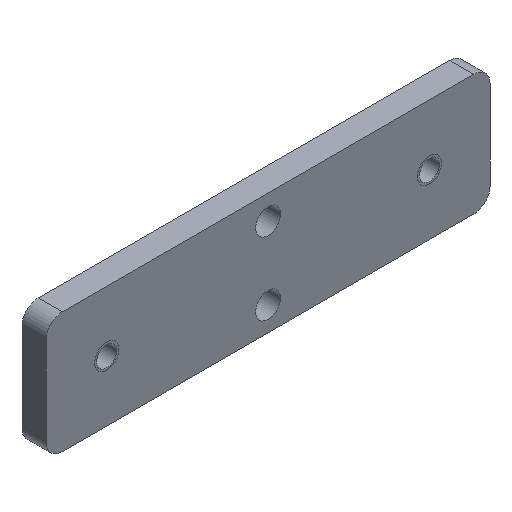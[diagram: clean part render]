
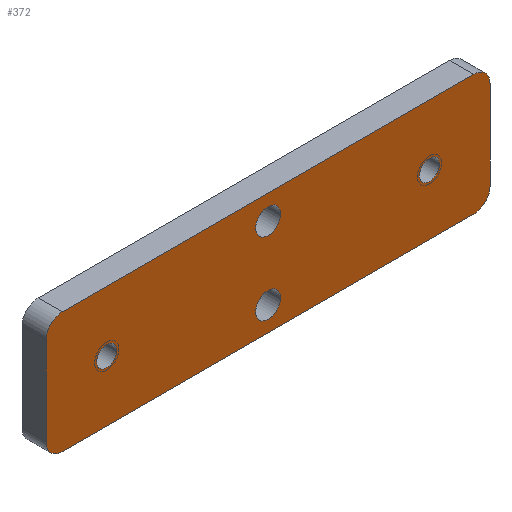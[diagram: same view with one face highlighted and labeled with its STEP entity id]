
A CAD part, isometric view. The second image highlights one B-rep face of the part: STEP entity #372.
In plain terms, the highlighted planar face has unit normal (0, -1, 0).
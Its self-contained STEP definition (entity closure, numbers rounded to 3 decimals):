
#1=CARTESIAN_POINT('',(0.,0.,9.));
#2=DIRECTION('',(0.,1.,0.));
#3=DIRECTION('',(1.,0.,0.));
#4=AXIS2_PLACEMENT_3D('',#1,#2,#3);
#6=CARTESIAN_POINT('',(0.,0.,9.));
#7=DIRECTION('',(0.,1.,0.));
#8=DIRECTION('',(-1.,0.,0.));
#9=AXIS2_PLACEMENT_3D('',#6,#7,#8);
#11=CARTESIAN_POINT('',(0.,0.,-9.));
#12=DIRECTION('',(0.,1.,0.));
#13=DIRECTION('',(1.,0.,0.));
#14=AXIS2_PLACEMENT_3D('',#11,#12,#13);
#16=CARTESIAN_POINT('',(0.,0.,-9.));
#17=DIRECTION('',(0.,1.,0.));
#18=DIRECTION('',(-1.,0.,0.));
#19=AXIS2_PLACEMENT_3D('',#16,#17,#18);
#21=CARTESIAN_POINT('',(40.,0.,0.));
#22=DIRECTION('',(0.,1.,0.));
#23=DIRECTION('',(1.,0.,0.));
#24=AXIS2_PLACEMENT_3D('',#21,#22,#23);
#26=CARTESIAN_POINT('',(40.,0.,0.));
#27=DIRECTION('',(0.,1.,0.));
#28=DIRECTION('',(-1.,0.,0.));
#29=AXIS2_PLACEMENT_3D('',#26,#27,#28);
#31=CARTESIAN_POINT('',(-40.,0.,0.));
#32=DIRECTION('',(0.,1.,0.));
#33=DIRECTION('',(1.,0.,0.));
#34=AXIS2_PLACEMENT_3D('',#31,#32,#33);
#36=CARTESIAN_POINT('',(-40.,0.,0.));
#37=DIRECTION('',(0.,1.,0.));
#38=DIRECTION('',(-1.,0.,0.));
#39=AXIS2_PLACEMENT_3D('',#36,#37,#38);
#41=DIRECTION('',(0.,0.,-1.));
#42=VECTOR('',#41,22.);
#43=CARTESIAN_POINT('',(55.,0.,11.));
#44=LINE('',#43,#42);
#45=DIRECTION('',(-1.,0.,0.));
#46=VECTOR('',#45,102.);
#47=CARTESIAN_POINT('',(51.,0.,-15.));
#48=LINE('',#47,#46);
#49=DIRECTION('',(0.,0.,1.));
#50=VECTOR('',#49,22.);
#51=CARTESIAN_POINT('',(-55.,0.,-11.));
#52=LINE('',#51,#50);
#53=DIRECTION('',(1.,0.,0.));
#54=VECTOR('',#53,102.);
#55=CARTESIAN_POINT('',(-51.,0.,15.));
#56=LINE('',#55,#54);
#194=CARTESIAN_POINT('',(51.,0.,11.));
#195=DIRECTION('',(0.,-1.,0.));
#196=DIRECTION('',(1.,0.,0.));
#197=AXIS2_PLACEMENT_3D('',#194,#195,#196);
#212=CARTESIAN_POINT('',(-51.,0.,11.));
#213=DIRECTION('',(0.,-1.,0.));
#214=DIRECTION('',(0.,0.,1.));
#215=AXIS2_PLACEMENT_3D('',#212,#213,#214);
#230=CARTESIAN_POINT('',(-51.,0.,-11.));
#231=DIRECTION('',(0.,-1.,0.));
#232=DIRECTION('',(-1.,0.,0.));
#233=AXIS2_PLACEMENT_3D('',#230,#231,#232);
#248=CARTESIAN_POINT('',(51.,0.,-11.));
#249=DIRECTION('',(0.,-1.,0.));
#250=DIRECTION('',(0.,0.,-1.));
#251=AXIS2_PLACEMENT_3D('',#248,#249,#250);
#253=CARTESIAN_POINT('',(3.1,0.,9.));
#254=CARTESIAN_POINT('',(-3.1,0.,9.));
#255=VERTEX_POINT('',#253);
#256=VERTEX_POINT('',#254);
#257=CARTESIAN_POINT('',(3.1,0.,-9.));
#258=CARTESIAN_POINT('',(-3.1,0.,-9.));
#259=VERTEX_POINT('',#257);
#260=VERTEX_POINT('',#258);
#273=CARTESIAN_POINT('',(42.5,0.,0.));
#274=CARTESIAN_POINT('',(37.5,0.,0.));
#275=VERTEX_POINT('',#273);
#276=VERTEX_POINT('',#274);
#285=CARTESIAN_POINT('',(-37.5,0.,0.));
#286=CARTESIAN_POINT('',(-42.5,0.,0.));
#287=VERTEX_POINT('',#285);
#288=VERTEX_POINT('',#286);
#294=CARTESIAN_POINT('',(51.,0.,15.));
#296=VERTEX_POINT('',#294);
#299=CARTESIAN_POINT('',(55.,0.,11.));
#300=VERTEX_POINT('',#299);
#302=CARTESIAN_POINT('',(55.,0.,-11.));
#304=VERTEX_POINT('',#302);
#307=CARTESIAN_POINT('',(51.,0.,-15.));
#308=VERTEX_POINT('',#307);
#310=CARTESIAN_POINT('',(-55.,0.,11.));
#312=VERTEX_POINT('',#310);
#315=CARTESIAN_POINT('',(-51.,0.,15.));
#316=VERTEX_POINT('',#315);
#318=CARTESIAN_POINT('',(-51.,0.,-15.));
#320=VERTEX_POINT('',#318);
#323=CARTESIAN_POINT('',(-55.,0.,-11.));
#324=VERTEX_POINT('',#323);
#325=CARTESIAN_POINT('',(0.,0.,0.));
#326=DIRECTION('',(0.,1.,0.));
#327=DIRECTION('',(1.,0.,0.));
#328=AXIS2_PLACEMENT_3D('',#325,#326,#327);
#329=PLANE('',#328);
#331=ORIENTED_EDGE('',*,*,#330,.F.);
#333=ORIENTED_EDGE('',*,*,#332,.T.);
#335=ORIENTED_EDGE('',*,*,#334,.F.);
#337=ORIENTED_EDGE('',*,*,#336,.T.);
#339=ORIENTED_EDGE('',*,*,#338,.F.);
#341=ORIENTED_EDGE('',*,*,#340,.T.);
#343=ORIENTED_EDGE('',*,*,#342,.F.);
#345=ORIENTED_EDGE('',*,*,#344,.T.);
#346=EDGE_LOOP('',(#331,#333,#335,#337,#339,#341,#343,#345));
#347=FACE_OUTER_BOUND('',#346,.F.);
#349=ORIENTED_EDGE('',*,*,#348,.F.);
#351=ORIENTED_EDGE('',*,*,#350,.F.);
#352=EDGE_LOOP('',(#349,#351));
#353=FACE_BOUND('',#352,.F.);
#355=ORIENTED_EDGE('',*,*,#354,.F.);
#357=ORIENTED_EDGE('',*,*,#356,.F.);
#358=EDGE_LOOP('',(#355,#357));
#359=FACE_BOUND('',#358,.F.);
#361=ORIENTED_EDGE('',*,*,#360,.F.);
#363=ORIENTED_EDGE('',*,*,#362,.F.);
#364=EDGE_LOOP('',(#361,#363));
#365=FACE_BOUND('',#364,.F.);
#367=ORIENTED_EDGE('',*,*,#366,.F.);
#369=ORIENTED_EDGE('',*,*,#368,.F.);
#370=EDGE_LOOP('',(#367,#369));
#371=FACE_BOUND('',#370,.F.);
#372=ADVANCED_FACE('',(#347,#353,#359,#365,#371),#329,.F.);
#5=CIRCLE('',#4,3.1);
#10=CIRCLE('',#9,3.1);
#15=CIRCLE('',#14,3.1);
#20=CIRCLE('',#19,3.1);
#25=CIRCLE('',#24,2.5);
#30=CIRCLE('',#29,2.5);
#35=CIRCLE('',#34,2.5);
#40=CIRCLE('',#39,2.5);
#198=CIRCLE('',#197,4.);
#216=CIRCLE('',#215,4.);
#234=CIRCLE('',#233,4.);
#252=CIRCLE('',#251,4.);
#330=EDGE_CURVE('',#300,#296,#198,.T.);
#332=EDGE_CURVE('',#300,#304,#44,.T.);
#334=EDGE_CURVE('',#308,#304,#252,.T.);
#336=EDGE_CURVE('',#308,#320,#48,.T.);
#338=EDGE_CURVE('',#324,#320,#234,.T.);
#340=EDGE_CURVE('',#324,#312,#52,.T.);
#342=EDGE_CURVE('',#316,#312,#216,.T.);
#344=EDGE_CURVE('',#316,#296,#56,.T.);
#348=EDGE_CURVE('',#255,#256,#5,.T.);
#350=EDGE_CURVE('',#256,#255,#10,.T.);
#354=EDGE_CURVE('',#259,#260,#15,.T.);
#356=EDGE_CURVE('',#260,#259,#20,.T.);
#360=EDGE_CURVE('',#275,#276,#25,.T.);
#362=EDGE_CURVE('',#276,#275,#30,.T.);
#366=EDGE_CURVE('',#287,#288,#35,.T.);
#368=EDGE_CURVE('',#288,#287,#40,.T.);
